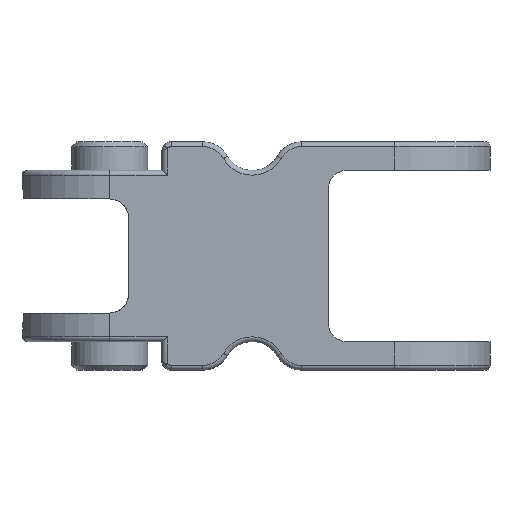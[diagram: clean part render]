
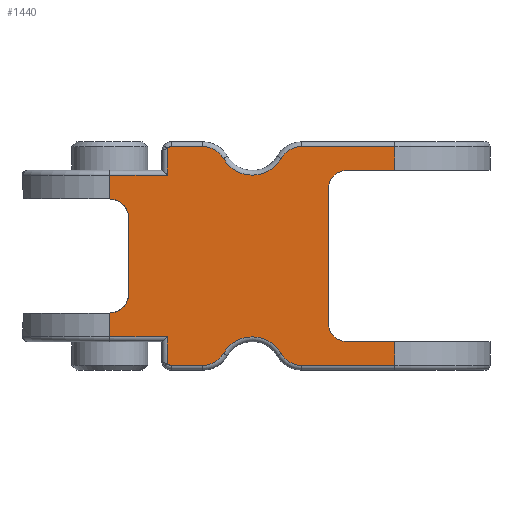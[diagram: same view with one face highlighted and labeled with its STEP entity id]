
A CAD part, front view. The second image highlights one B-rep face of the part: STEP entity #1440.
In plain terms, the highlighted planar face has unit normal (0, -1, 0).
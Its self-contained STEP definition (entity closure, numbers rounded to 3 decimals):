
#49=CARTESIAN_POINT('',(2.,-5.0,11.75));
#50=VERTEX_POINT('',#49);
#68=CARTESIAN_POINT('',(-2.902,-5.0,11.75));
#69=VERTEX_POINT('',#68);
#77=CARTESIAN_POINT('',(-2.902,-5.0,11.75));
#78=DIRECTION('',(1.0,0.0,0.0));
#79=VECTOR('',#78,4.902);
#80=LINE('',#77,#79);
#81=EDGE_CURVE('',#69,#50,#80,.T.);
#127=CARTESIAN_POINT('',(-3.984,-5.0,11.125));
#128=VERTEX_POINT('',#127);
#136=CARTESIAN_POINT('',(-2.902,-5.0,10.5));
#137=DIRECTION('',(0.0,1.,0.0));
#138=DIRECTION('',(-0.5,0.0,0.866));
#139=AXIS2_PLACEMENT_3D('',#136,#137,#138);
#140=CIRCLE('',#139,1.25);
#141=EDGE_CURVE('',#128,#69,#140,.T.);
#193=CARTESIAN_POINT('',(-7.016,-5.0,11.125));
#194=VERTEX_POINT('',#193);
#202=CARTESIAN_POINT('',(-5.5,-5.0,12.));
#203=DIRECTION('',(0.0,-1.0,0.0));
#204=DIRECTION('',(0.0,0.0,-1.0));
#205=AXIS2_PLACEMENT_3D('',#202,#203,#204);
#206=CIRCLE('',#205,1.75);
#207=EDGE_CURVE('',#194,#128,#206,.T.);
#261=CARTESIAN_POINT('',(-8.098,-5.0,11.75));
#262=VERTEX_POINT('',#261);
#270=CARTESIAN_POINT('',(-8.098,-5.0,10.5));
#271=DIRECTION('',(0.0,1.0,0.0));
#272=DIRECTION('',(0.5,0.0,0.866));
#273=AXIS2_PLACEMENT_3D('',#270,#271,#272);
#274=CIRCLE('',#273,1.25);
#275=EDGE_CURVE('',#262,#194,#274,.T.);
#329=CARTESIAN_POINT('',(-9.755,-5.0,11.75));
#330=VERTEX_POINT('',#329);
#338=CARTESIAN_POINT('',(-9.755,-5.0,11.75));
#339=DIRECTION('',(1.0,0.0,0.));
#340=VECTOR('',#339,1.657);
#341=LINE('',#338,#340);
#342=EDGE_CURVE('',#330,#262,#341,.T.);
#413=CARTESIAN_POINT('',(-9.955,-5.0,11.65));
#414=VERTEX_POINT('',#413);
#422=CARTESIAN_POINT('',(-9.755,-5.0,11.5));
#423=DIRECTION('',(0.0,1.0,0.0));
#424=DIRECTION('',(-0.204,0.0,0.979));
#425=AXIS2_PLACEMENT_3D('',#422,#423,#424);
#426=CIRCLE('',#425,0.25);
#427=EDGE_CURVE('',#414,#330,#426,.T.);
#1226=CARTESIAN_POINT('',(2.,-5.0,10.5));
#1227=VERTEX_POINT('',#1226);
#1228=CARTESIAN_POINT('',(2.,-5.0,10.5));
#1229=DIRECTION('',(0.0,0.0,1.0));
#1230=VECTOR('',#1229,1.25);
#1231=LINE('',#1228,#1230);
#1232=EDGE_CURVE('',#1227,#50,#1231,.T.);
#1252=CARTESIAN_POINT('',(2.,-5.0,0.0));
#1253=DIRECTION('',(0.0,-1.0,0.0));
#1254=DIRECTION('',(0.0,0.0,-1.0));
#1255=AXIS2_PLACEMENT_3D('',#1252,#1253,#1254);
#1256=PLANE('',#1255);
#1257=ORIENTED_EDGE('',*,*,#81,.F.);
#1258=ORIENTED_EDGE('',*,*,#141,.F.);
#1259=ORIENTED_EDGE('',*,*,#207,.F.);
#1260=ORIENTED_EDGE('',*,*,#275,.F.);
#1261=ORIENTED_EDGE('',*,*,#342,.F.);
#1262=ORIENTED_EDGE('',*,*,#427,.F.);
#1263=CARTESIAN_POINT('',(-9.955,-5.0,10.25));
#1264=VERTEX_POINT('',#1263);
#1265=CARTESIAN_POINT('',(-9.955,-5.0,10.25));
#1266=DIRECTION('',(0.0,0.0,1.0));
#1267=VECTOR('',#1266,1.4);
#1268=LINE('',#1265,#1267);
#1269=EDGE_CURVE('',#1264,#414,#1268,.T.);
#1270=ORIENTED_EDGE('',*,*,#1269,.F.);
#1271=CARTESIAN_POINT('',(-13.,-5.0,10.25));
#1272=VERTEX_POINT('',#1271);
#1273=CARTESIAN_POINT('',(-13.,-5.0,10.25));
#1274=DIRECTION('',(1.0,0.0,0.0));
#1275=VECTOR('',#1274,3.045);
#1276=LINE('',#1273,#1275);
#1277=EDGE_CURVE('',#1272,#1264,#1276,.T.);
#1278=ORIENTED_EDGE('',*,*,#1277,.F.);
#1279=CARTESIAN_POINT('',(-13.,-5.0,9.));
#1280=VERTEX_POINT('',#1279);
#1281=CARTESIAN_POINT('',(-13.,-5.0,9.));
#1282=DIRECTION('',(0.,0.0,1.0));
#1283=VECTOR('',#1282,1.25);
#1284=LINE('',#1281,#1283);
#1285=EDGE_CURVE('',#1280,#1272,#1284,.T.);
#1286=ORIENTED_EDGE('',*,*,#1285,.F.);
#1287=CARTESIAN_POINT('',(-12.,-5.0,8.));
#1288=VERTEX_POINT('',#1287);
#1289=CARTESIAN_POINT('',(-13.,-5.0,8.));
#1290=DIRECTION('',(0.0,1.0,0.0));
#1291=DIRECTION('',(-1.0,0.0,0.0));
#1292=AXIS2_PLACEMENT_3D('',#1289,#1290,#1291);
#1293=CIRCLE('',#1292,1.0);
#1294=EDGE_CURVE('',#1280,#1288,#1293,.T.);
#1295=ORIENTED_EDGE('',*,*,#1294,.T.);
#1296=CARTESIAN_POINT('',(-12.,-5.0,4.));
#1297=VERTEX_POINT('',#1296);
#1298=CARTESIAN_POINT('',(-12.,-5.0,8.));
#1299=DIRECTION('',(0.0,0.0,-1.0));
#1300=VECTOR('',#1299,4.);
#1301=LINE('',#1298,#1300);
#1302=EDGE_CURVE('',#1288,#1297,#1301,.T.);
#1303=ORIENTED_EDGE('',*,*,#1302,.T.);
#1304=CARTESIAN_POINT('',(-13.,-5.0,3.));
#1305=VERTEX_POINT('',#1304);
#1306=CARTESIAN_POINT('',(-13.,-5.0,4.));
#1307=DIRECTION('',(0.0,1.0,0.0));
#1308=DIRECTION('',(0.0,0.0,1.0));
#1309=AXIS2_PLACEMENT_3D('',#1306,#1307,#1308);
#1310=CIRCLE('',#1309,1.0);
#1311=EDGE_CURVE('',#1297,#1305,#1310,.T.);
#1312=ORIENTED_EDGE('',*,*,#1311,.T.);
#1313=CARTESIAN_POINT('',(-13.,-5.0,1.75));
#1314=VERTEX_POINT('',#1313);
#1315=CARTESIAN_POINT('',(-13.,-5.0,1.75));
#1316=DIRECTION('',(0.,0.0,1.0));
#1317=VECTOR('',#1316,1.25);
#1318=LINE('',#1315,#1317);
#1319=EDGE_CURVE('',#1314,#1305,#1318,.T.);
#1320=ORIENTED_EDGE('',*,*,#1319,.F.);
#1321=CARTESIAN_POINT('',(-9.955,-5.0,1.75));
#1322=VERTEX_POINT('',#1321);
#1323=CARTESIAN_POINT('',(-9.955,-5.0,1.75));
#1324=DIRECTION('',(-1.0,0.0,0.0));
#1325=VECTOR('',#1324,3.045);
#1326=LINE('',#1323,#1325);
#1327=EDGE_CURVE('',#1322,#1314,#1326,.T.);
#1328=ORIENTED_EDGE('',*,*,#1327,.F.);
#1329=CARTESIAN_POINT('',(-9.955,-5.0,0.35));
#1330=VERTEX_POINT('',#1329);
#1331=CARTESIAN_POINT('',(-9.955,-5.0,1.75));
#1332=DIRECTION('',(0.0,0.0,-1.0));
#1333=VECTOR('',#1332,1.4);
#1334=LINE('',#1331,#1333);
#1335=EDGE_CURVE('',#1322,#1330,#1334,.T.);
#1336=ORIENTED_EDGE('',*,*,#1335,.T.);
#1337=CARTESIAN_POINT('',(-9.755,-5.0,0.25));
#1338=VERTEX_POINT('',#1337);
#1339=CARTESIAN_POINT('',(-9.755,-5.0,0.5));
#1340=DIRECTION('',(0.0,1.,0.0));
#1341=DIRECTION('',(-0.204,0.0,-0.979));
#1342=AXIS2_PLACEMENT_3D('',#1339,#1340,#1341);
#1343=CIRCLE('',#1342,0.25);
#1344=EDGE_CURVE('',#1338,#1330,#1343,.T.);
#1345=ORIENTED_EDGE('',*,*,#1344,.F.);
#1346=CARTESIAN_POINT('',(-8.098,-5.0,0.25));
#1347=VERTEX_POINT('',#1346);
#1348=CARTESIAN_POINT('',(-8.098,-5.0,0.25));
#1349=DIRECTION('',(-1.0,0.0,0.));
#1350=VECTOR('',#1349,1.657);
#1351=LINE('',#1348,#1350);
#1352=EDGE_CURVE('',#1347,#1338,#1351,.T.);
#1353=ORIENTED_EDGE('',*,*,#1352,.F.);
#1354=CARTESIAN_POINT('',(-7.016,-5.0,0.875));
#1355=VERTEX_POINT('',#1354);
#1356=CARTESIAN_POINT('',(-8.098,-5.0,1.5));
#1357=DIRECTION('',(0.0,1.0,0.0));
#1358=DIRECTION('',(0.5,0.0,-0.866));
#1359=AXIS2_PLACEMENT_3D('',#1356,#1357,#1358);
#1360=CIRCLE('',#1359,1.25);
#1361=EDGE_CURVE('',#1355,#1347,#1360,.T.);
#1362=ORIENTED_EDGE('',*,*,#1361,.F.);
#1363=CARTESIAN_POINT('',(-3.984,-5.0,0.875));
#1364=VERTEX_POINT('',#1363);
#1365=CARTESIAN_POINT('',(-5.5,-5.0,0.));
#1366=DIRECTION('',(0.0,-1.0,0.0));
#1367=DIRECTION('',(0.0,0.0,1.0));
#1368=AXIS2_PLACEMENT_3D('',#1365,#1366,#1367);
#1369=CIRCLE('',#1368,1.75);
#1370=EDGE_CURVE('',#1364,#1355,#1369,.T.);
#1371=ORIENTED_EDGE('',*,*,#1370,.F.);
#1372=CARTESIAN_POINT('',(-2.902,-5.0,0.25));
#1373=VERTEX_POINT('',#1372);
#1374=CARTESIAN_POINT('',(-2.902,-5.0,1.5));
#1375=DIRECTION('',(0.0,1.,0.0));
#1376=DIRECTION('',(-0.5,0.0,-0.866));
#1377=AXIS2_PLACEMENT_3D('',#1374,#1375,#1376);
#1378=CIRCLE('',#1377,1.25);
#1379=EDGE_CURVE('',#1373,#1364,#1378,.T.);
#1380=ORIENTED_EDGE('',*,*,#1379,.F.);
#1381=CARTESIAN_POINT('',(2.,-5.0,0.25));
#1382=VERTEX_POINT('',#1381);
#1383=CARTESIAN_POINT('',(2.,-5.0,0.25));
#1384=DIRECTION('',(-1.0,0.0,0.0));
#1385=VECTOR('',#1384,4.902);
#1386=LINE('',#1383,#1385);
#1387=EDGE_CURVE('',#1382,#1373,#1386,.T.);
#1388=ORIENTED_EDGE('',*,*,#1387,.F.);
#1389=CARTESIAN_POINT('',(2.,-5.0,1.5));
#1390=VERTEX_POINT('',#1389);
#1391=CARTESIAN_POINT('',(2.,-5.0,0.25));
#1392=DIRECTION('',(0.0,0.0,1.0));
#1393=VECTOR('',#1392,1.25);
#1394=LINE('',#1391,#1393);
#1395=EDGE_CURVE('',#1382,#1390,#1394,.T.);
#1396=ORIENTED_EDGE('',*,*,#1395,.T.);
#1397=CARTESIAN_POINT('',(-0.5,-5.0,1.5));
#1398=VERTEX_POINT('',#1397);
#1399=CARTESIAN_POINT('',(2.,-5.0,1.5));
#1400=DIRECTION('',(-1.0,0.0,0.0));
#1401=VECTOR('',#1400,2.5);
#1402=LINE('',#1399,#1401);
#1403=EDGE_CURVE('',#1390,#1398,#1402,.T.);
#1404=ORIENTED_EDGE('',*,*,#1403,.T.);
#1405=CARTESIAN_POINT('',(-1.5,-5.0,2.5));
#1406=VERTEX_POINT('',#1405);
#1407=CARTESIAN_POINT('',(-0.5,-5.0,2.5));
#1408=DIRECTION('',(0.0,1.0,0.0));
#1409=DIRECTION('',(1.0,0.0,0.0));
#1410=AXIS2_PLACEMENT_3D('',#1407,#1408,#1409);
#1411=CIRCLE('',#1410,1.0);
#1412=EDGE_CURVE('',#1398,#1406,#1411,.T.);
#1413=ORIENTED_EDGE('',*,*,#1412,.T.);
#1414=CARTESIAN_POINT('',(-1.5,-5.0,9.5));
#1415=VERTEX_POINT('',#1414);
#1416=CARTESIAN_POINT('',(-1.5,-5.0,2.5));
#1417=DIRECTION('',(0.0,0.0,1.0));
#1418=VECTOR('',#1417,7.);
#1419=LINE('',#1416,#1418);
#1420=EDGE_CURVE('',#1406,#1415,#1419,.T.);
#1421=ORIENTED_EDGE('',*,*,#1420,.T.);
#1422=CARTESIAN_POINT('',(-0.5,-5.0,10.5));
#1423=VERTEX_POINT('',#1422);
#1424=CARTESIAN_POINT('',(-0.5,-5.0,9.5));
#1425=DIRECTION('',(0.0,1.0,0.0));
#1426=DIRECTION('',(0.0,0.0,-1.0));
#1427=AXIS2_PLACEMENT_3D('',#1424,#1425,#1426);
#1428=CIRCLE('',#1427,1.0);
#1429=EDGE_CURVE('',#1415,#1423,#1428,.T.);
#1430=ORIENTED_EDGE('',*,*,#1429,.T.);
#1431=CARTESIAN_POINT('',(-0.5,-5.0,10.5));
#1432=DIRECTION('',(1.0,0.0,0.0));
#1433=VECTOR('',#1432,2.5);
#1434=LINE('',#1431,#1433);
#1435=EDGE_CURVE('',#1423,#1227,#1434,.T.);
#1436=ORIENTED_EDGE('',*,*,#1435,.T.);
#1437=ORIENTED_EDGE('',*,*,#1232,.T.);
#1438=EDGE_LOOP('',(#1257,#1258,#1259,#1260,#1261,#1262,#1270,#1278,#1286,#1295,#1303,#1312,#1320,#1328,#1336,#1345,#1353,#1362,#1371,#1380,#1388,#1396,#1404,#1413,#1421,#1430,#1436,#1437));
#1439=FACE_OUTER_BOUND('',#1438,.T.);
#1440=ADVANCED_FACE('',(#1439),#1256,.T.);
